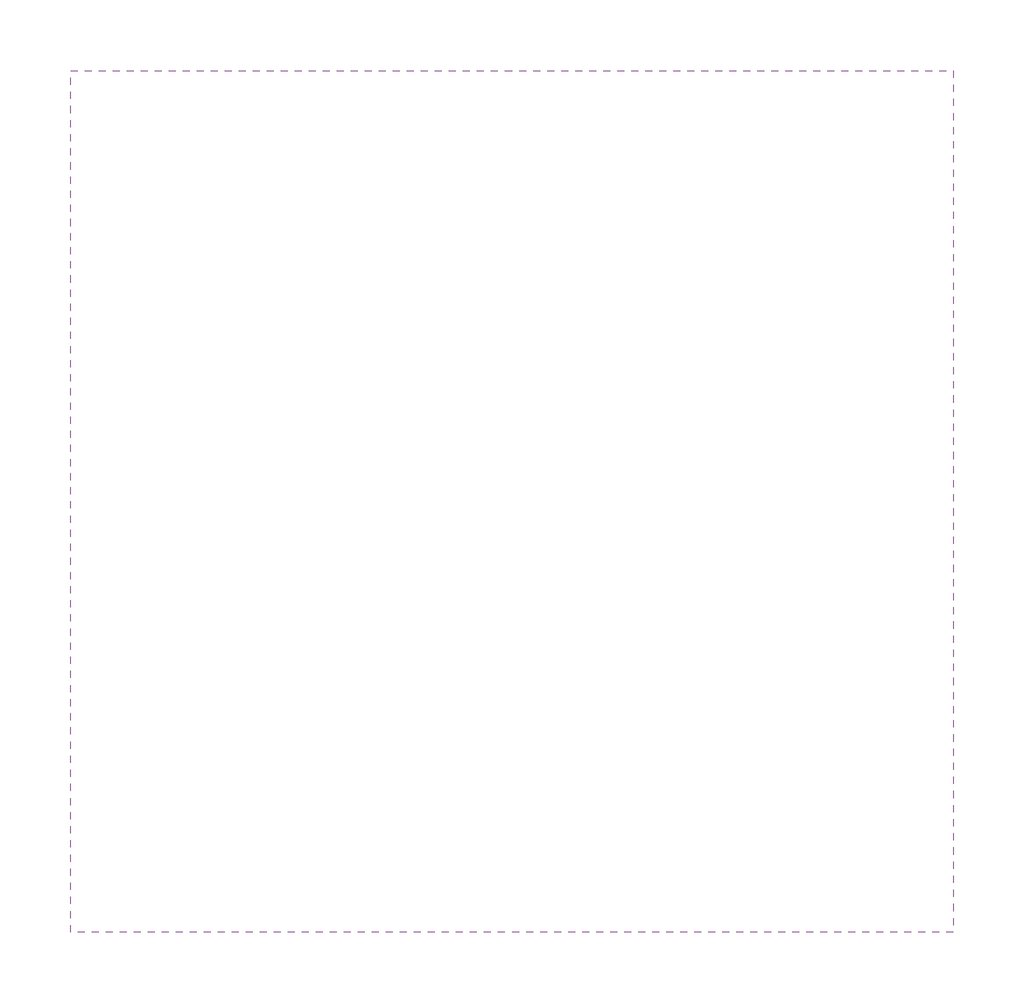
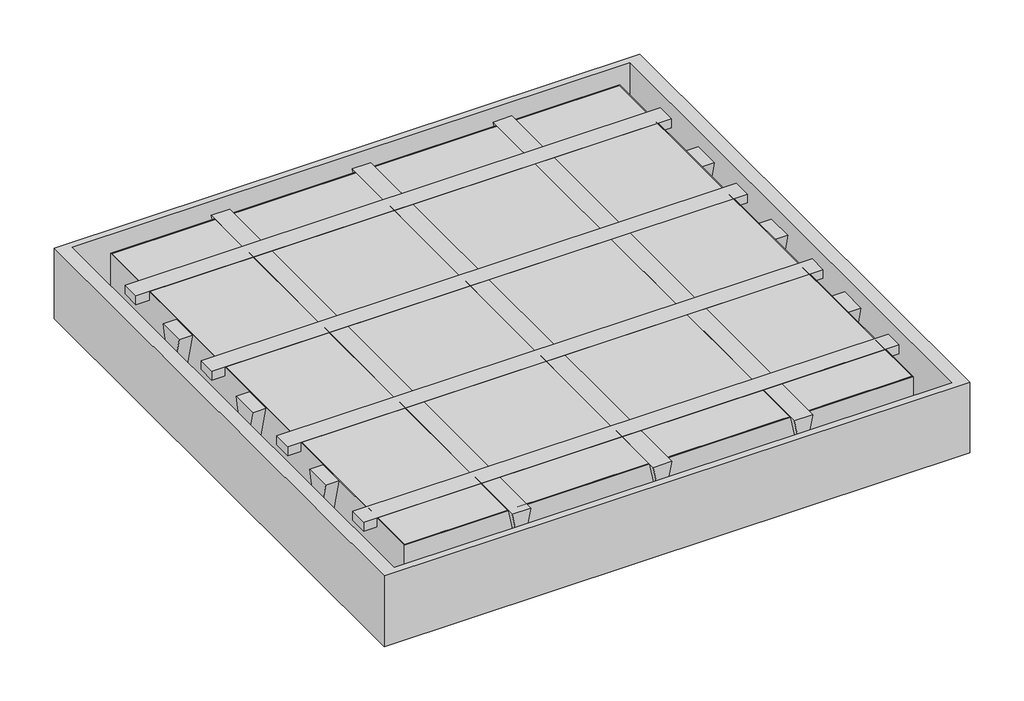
# One storey: 1 light fixture.
"""IFC4 building model written with IfcOpenShell, lengths in millimetres."""

from ifc_helpers import new_model, si_unit, origin, place, context, project, spatial, transform, mapped, element, save
from components import light_fixture_7fb6fe20

model = new_model("IFC4")

# Units and contexts
model_context = context("Model", 3, world=origin())
ifc_project = project(units=[si_unit("LENGTHUNIT", "METRE", prefix="MILLI")], contexts=[model_context])

# Site, building, storey
site = spatial("IfcSite", under=ifc_project)
building = spatial("IfcBuilding", under=site)
storey = spatial("IfcBuildingStorey", under=building, Name="Этаж 2", Elevation=2700.0)

# Light fixture
placement = place(None, origin())
light_fixture_shape = light_fixture_7fb6fe20(model_context)
element("IfcLightFixture", 1, ObjectType="ARS_S UNI LED (открыто) : ARS_S UNI LED (открыто)", at=placement, inside=storey, context=model_context, shape_type="MappedRepresentation", body=[
    mapped(light_fixture_shape, transform((17164.9977975, 4440.0, 5100.0), x_axis=(1.0, 0.0, 0.0), y_axis=(0.0, -1.0, 0.0), z_axis=(0.0, 0.0, -1.0))),
])

save(model, "model.ifc")
